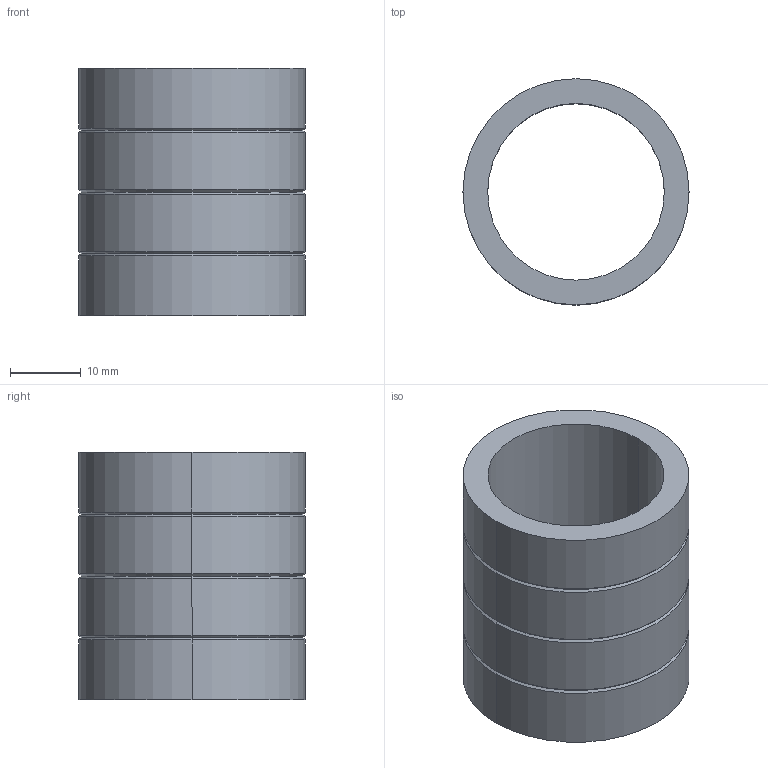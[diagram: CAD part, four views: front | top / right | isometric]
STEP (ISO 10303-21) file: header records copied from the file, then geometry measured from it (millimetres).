
FILE_DESCRIPTION(/* description */ (''),/* implementation_level */ '2;1');
FILE_NAME(/* name */ '3d_sgbl25-35_00010_r00.stp',/* time_stamp */ '2011-01-10T14:11:12+09:00',/* author */ ('MISUMI'),/* organization */ (''),/* preprocessor_version */ 'ST-DEVELOPER v11',/* originating_system */ 'UGS - NX 5.0',/* authorisation */ '');
FILE_SCHEMA (('CONFIG_CONTROL_DESIGN'));
Length unit declared in the file: millimetre
Products named in the file (1): 3d_sgbl25-35_00010_r00
Bounding box: 32 x 32 x 35 mm (x, y, z)
Volume: 10941.1 mm3; surface area: 6966.8 mm2
Topology: 1 solids, 1 shells, 24 faces, 48 edges, 26 vertices
Faces by surface type: cone 12, cylinder 10, plane 2
Entity records: 704 total; most frequent: DIRECTION 124, CARTESIAN_POINT 99, ORIENTED_EDGE 96, AXIS2_PLACEMENT_3D 51, EDGE_CURVE 48, EDGE_LOOP 26, VERTEX_POINT 26, CIRCLE 26
